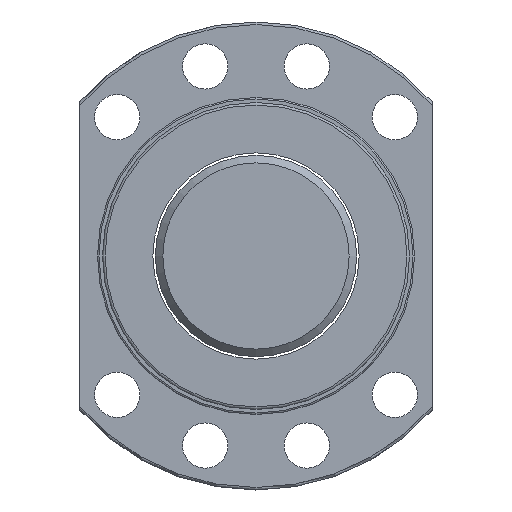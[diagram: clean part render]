
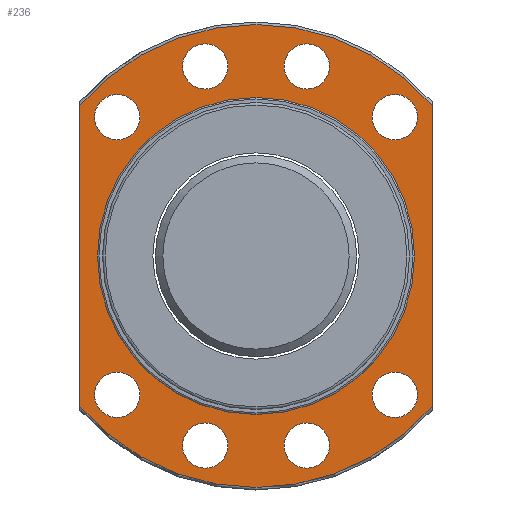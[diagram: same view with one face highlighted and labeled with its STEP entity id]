
A CAD part, left-side view. The second image highlights one B-rep face of the part: STEP entity #236.
In plain terms, the highlighted planar face has unit normal (-1, 0, 0).
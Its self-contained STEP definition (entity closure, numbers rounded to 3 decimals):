
#97=LINE('',#1054,#105);
#98=LINE('',#1056,#106);
#105=VECTOR('',#815,1.);
#106=VECTOR('',#816,1.);
#174=FACE_BOUND('',#321,.T.);
#175=FACE_BOUND('',#322,.T.);
#176=FACE_BOUND('',#323,.T.);
#177=FACE_BOUND('',#324,.T.);
#178=FACE_BOUND('',#325,.T.);
#179=FACE_BOUND('',#326,.T.);
#180=FACE_BOUND('',#327,.T.);
#181=FACE_BOUND('',#328,.T.);
#182=FACE_BOUND('',#329,.T.);
#236=ADVANCED_FACE('',(#280,#174,#175,#176,#177,#178,#179,#180,#181,#182),
#263,.T.);
#263=PLANE('',#701);
#280=FACE_OUTER_BOUND('',#320,.T.);
#320=EDGE_LOOP('',(#413,#414,#415,#416));
#321=EDGE_LOOP('',(#417));
#322=EDGE_LOOP('',(#418));
#323=EDGE_LOOP('',(#419));
#324=EDGE_LOOP('',(#420));
#325=EDGE_LOOP('',(#421));
#326=EDGE_LOOP('',(#422));
#327=EDGE_LOOP('',(#423));
#328=EDGE_LOOP('',(#424));
#329=EDGE_LOOP('',(#425));
#413=ORIENTED_EDGE('',*,*,#572,.F.);
#414=ORIENTED_EDGE('',*,*,#571,.F.);
#415=ORIENTED_EDGE('',*,*,#573,.T.);
#416=ORIENTED_EDGE('',*,*,#574,.F.);
#417=ORIENTED_EDGE('',*,*,#575,.T.);
#418=ORIENTED_EDGE('',*,*,#576,.F.);
#419=ORIENTED_EDGE('',*,*,#577,.F.);
#420=ORIENTED_EDGE('',*,*,#578,.F.);
#421=ORIENTED_EDGE('',*,*,#579,.F.);
#422=ORIENTED_EDGE('',*,*,#580,.F.);
#423=ORIENTED_EDGE('',*,*,#581,.F.);
#424=ORIENTED_EDGE('',*,*,#582,.F.);
#425=ORIENTED_EDGE('',*,*,#583,.F.);
#515=VERTEX_POINT('',#1031);
#516=VERTEX_POINT('',#1051);
#517=VERTEX_POINT('',#1055);
#518=VERTEX_POINT('',#1057);
#519=VERTEX_POINT('',#1060);
#520=VERTEX_POINT('',#1062);
#521=VERTEX_POINT('',#1064);
#522=VERTEX_POINT('',#1066);
#523=VERTEX_POINT('',#1068);
#524=VERTEX_POINT('',#1070);
#525=VERTEX_POINT('',#1072);
#526=VERTEX_POINT('',#1074);
#527=VERTEX_POINT('',#1076);
#571=EDGE_CURVE('',#516,#515,#626,.T.);
#572=EDGE_CURVE('',#515,#517,#97,.T.);
#573=EDGE_CURVE('',#516,#518,#98,.T.);
#574=EDGE_CURVE('',#517,#518,#627,.T.);
#575=EDGE_CURVE('',#519,#519,#628,.T.);
#576=EDGE_CURVE('',#520,#520,#629,.T.);
#577=EDGE_CURVE('',#521,#521,#630,.T.);
#578=EDGE_CURVE('',#522,#522,#631,.T.);
#579=EDGE_CURVE('',#523,#523,#632,.T.);
#580=EDGE_CURVE('',#524,#524,#633,.T.);
#581=EDGE_CURVE('',#525,#525,#634,.T.);
#582=EDGE_CURVE('',#526,#526,#635,.T.);
#583=EDGE_CURVE('',#527,#527,#636,.T.);
#626=CIRCLE('',#689,46.);
#627=CIRCLE('',#691,46.);
#628=CIRCLE('',#692,31.5);
#629=CIRCLE('',#693,4.5);
#630=CIRCLE('',#694,4.5);
#631=CIRCLE('',#695,4.5);
#632=CIRCLE('',#696,4.5);
#633=CIRCLE('',#697,4.5);
#634=CIRCLE('',#698,4.5);
#635=CIRCLE('',#699,4.5);
#636=CIRCLE('',#700,4.5);
#689=AXIS2_PLACEMENT_3D('',#1052,#811,#812);
#691=AXIS2_PLACEMENT_3D('',#1058,#817,#818);
#692=AXIS2_PLACEMENT_3D('',#1059,#819,#820);
#693=AXIS2_PLACEMENT_3D('',#1061,#821,#822);
#694=AXIS2_PLACEMENT_3D('',#1063,#823,#824);
#695=AXIS2_PLACEMENT_3D('',#1065,#825,#826);
#696=AXIS2_PLACEMENT_3D('',#1067,#827,#828);
#697=AXIS2_PLACEMENT_3D('',#1069,#829,#830);
#698=AXIS2_PLACEMENT_3D('',#1071,#831,#832);
#699=AXIS2_PLACEMENT_3D('',#1073,#833,#834);
#700=AXIS2_PLACEMENT_3D('',#1075,#835,#836);
#701=AXIS2_PLACEMENT_3D('',#1077,#837,#838);
#811=DIRECTION('',(1.,0.,0.));
#812=DIRECTION('',(0.,1.,0.));
#815=DIRECTION('',(0.,0.,1.));
#816=DIRECTION('',(0.,0.,1.));
#817=DIRECTION('',(1.,0.,0.));
#818=DIRECTION('',(0.,1.,0.));
#819=DIRECTION('',(1.,0.,0.));
#820=DIRECTION('',(0.,1.,0.));
#821=DIRECTION('',(-1.,0.,0.));
#822=DIRECTION('',(0.,-1.,0.));
#823=DIRECTION('',(-1.,0.,0.));
#824=DIRECTION('',(0.,-1.,0.));
#825=DIRECTION('',(-1.,0.,0.));
#826=DIRECTION('',(0.,-1.,0.));
#827=DIRECTION('',(-1.,0.,0.));
#828=DIRECTION('',(0.,-1.,0.));
#829=DIRECTION('',(-1.,0.,0.));
#830=DIRECTION('',(0.,-1.,0.));
#831=DIRECTION('',(-1.,0.,0.));
#832=DIRECTION('',(0.,-1.,0.));
#833=DIRECTION('',(-1.,0.,0.));
#834=DIRECTION('',(0.,-1.,0.));
#835=DIRECTION('',(-1.,0.,0.));
#836=DIRECTION('',(0.,-1.,0.));
#837=DIRECTION('',(-1.,0.,0.));
#838=DIRECTION('',(0.,-1.,0.));
#1031=CARTESIAN_POINT('',(-42.524,35.,-29.85));
#1051=CARTESIAN_POINT('',(-42.524,-35.,-29.85));
#1052=CARTESIAN_POINT('',(-42.524,0.,0.));
#1054=CARTESIAN_POINT('',(-42.524,35.,0.));
#1055=CARTESIAN_POINT('',(-42.524,35.,29.85));
#1056=CARTESIAN_POINT('',(-42.524,-35.,0.));
#1057=CARTESIAN_POINT('',(-42.524,-35.,29.85));
#1058=CARTESIAN_POINT('',(-42.524,0.,0.));
#1059=CARTESIAN_POINT('',(-42.524,0.,0.));
#1060=CARTESIAN_POINT('',(-42.524,31.5,0.));
#1061=CARTESIAN_POINT('',(-42.524,10.094,37.671));
#1062=CARTESIAN_POINT('',(-42.524,5.594,37.671));
#1063=CARTESIAN_POINT('',(-42.524,-10.094,37.671));
#1064=CARTESIAN_POINT('',(-42.524,-14.594,37.671));
#1065=CARTESIAN_POINT('',(-42.524,-10.094,-37.671));
#1066=CARTESIAN_POINT('',(-42.524,-14.594,-37.671));
#1067=CARTESIAN_POINT('',(-42.524,10.094,-37.671));
#1068=CARTESIAN_POINT('',(-42.524,5.594,-37.671));
#1069=CARTESIAN_POINT('',(-42.524,-27.577,-27.577));
#1070=CARTESIAN_POINT('',(-42.524,-32.077,-27.577));
#1071=CARTESIAN_POINT('',(-42.524,27.577,-27.577));
#1072=CARTESIAN_POINT('',(-42.524,23.077,-27.577));
#1073=CARTESIAN_POINT('',(-42.524,-27.577,27.577));
#1074=CARTESIAN_POINT('',(-42.524,-32.077,27.577));
#1075=CARTESIAN_POINT('',(-42.524,27.577,27.577));
#1076=CARTESIAN_POINT('',(-42.524,23.077,27.577));
#1077=CARTESIAN_POINT('',(-42.524,38.75,0.));
